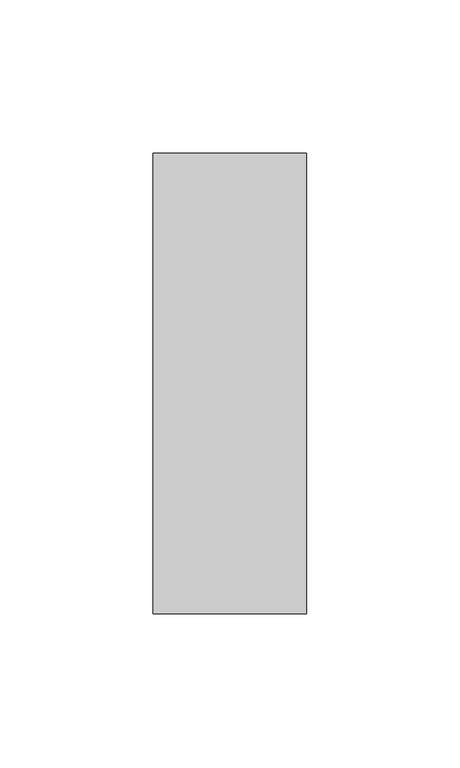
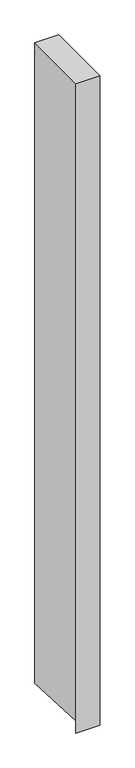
"""IFC4 building model written with IfcOpenShell, lengths in millimetres: member geometry, Прямоугольный импост : 50 x 150 мм."""

from ifc_helpers import new_model, si_unit, frame, origin, place, context, project, spatial, polyline, outline, extrude, source, transform, mapped, element, save


def member_360027b6(model_context):
    return source(origin(), model_context, "Body", "SweptSolid", [
        extrude(outline(polyline([(-75.0, 0.0), (75.0, 0.0), (75.0, -1428.3563625), (-73.7977635, -1421.6470443), (-75.0, -1448.3099767), (-75.0, 0.0)])), frame((-50.0, 0.0, 0.0), z_axis=(1.0, 0.0, 0.0), x_axis=(0.0, 1.0, 0.0)), (0.0, 0.0, 1.0), 50.0),
    ])


if __name__ == "__main__":
    model = new_model("IFC4")
    model_context = context("Model", 3, world=origin())
    ifc_project = project(units=[si_unit("LENGTHUNIT", "METRE", prefix="MILLI")], contexts=[model_context])
    site = spatial("IfcSite", under=ifc_project)
    building = spatial("IfcBuilding", under=site)
    placement = place(None, origin())
    member_shape = member_360027b6(model_context)
    element("IfcMember", 1, ObjectType="Прямоугольный импост : 50 x 150 мм", at=placement, inside=building, context=model_context, shape_type="MappedRepresentation", body=[
        mapped(member_shape, transform((0.0, 0.0, 0.0), x_axis=(1.0, 0.0, 0.0), y_axis=(0.0, 1.0, 0.0), z_axis=(0.0, 0.0, 1.0))),
    ])
    save(model, "model.ifc")
